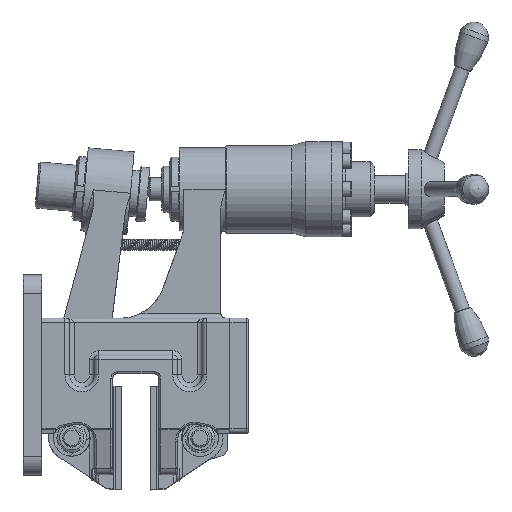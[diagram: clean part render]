
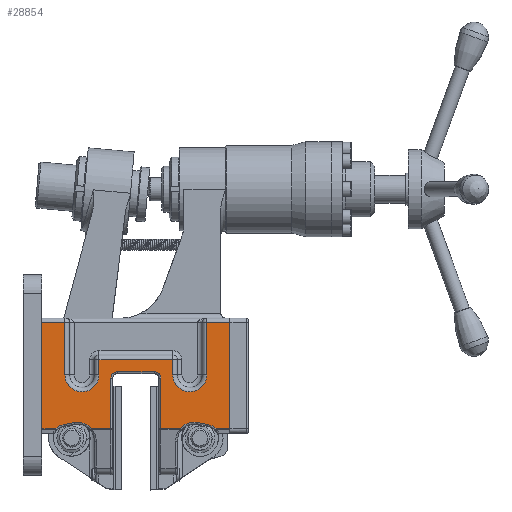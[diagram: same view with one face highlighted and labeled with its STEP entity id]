
A CAD part, top view. The second image highlights one B-rep face of the part: STEP entity #28854.
In plain terms, the highlighted planar face has unit normal (0, 0, 1).
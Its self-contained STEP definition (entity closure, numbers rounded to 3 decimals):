
#1496=PLANE('',#31441);
#2831=FACE_OUTER_BOUND('',#4508,.T.);
#4508=EDGE_LOOP('',(#22744,#22745,#22746,#22747,#22748,#22749,#22750,#22751,
#22752,#22753,#22754,#22755,#22756,#22757,#22758,#22759,#22760,#22761,#22762,
#22763,#22764,#22765,#22766,#22767,#22768,#22769));
#5959=LINE('',#51668,#7972);
#6162=LINE('',#52594,#8175);
#6386=LINE('',#53417,#8399);
#6388=LINE('',#53434,#8401);
#6391=LINE('',#53446,#8404);
#6393=LINE('',#53456,#8406);
#6395=LINE('',#53462,#8408);
#6396=LINE('',#53465,#8409);
#6398=LINE('',#53476,#8411);
#6428=LINE('',#53795,#8441);
#6429=LINE('',#53803,#8442);
#6430=LINE('',#53811,#8443);
#6436=LINE('',#53841,#8449);
#6437=LINE('',#53849,#8450);
#6441=LINE('',#53914,#8454);
#6448=LINE('',#53995,#8461);
#6449=LINE('',#54001,#8462);
#6450=LINE('',#54003,#8463);
#7972=VECTOR('',#35932,10.);
#8175=VECTOR('',#36739,10.);
#8399=VECTOR('',#37463,5.);
#8401=VECTOR('',#37483,10.);
#8404=VECTOR('',#37498,10.);
#8406=VECTOR('',#37510,10.);
#8408=VECTOR('',#37516,5.);
#8409=VECTOR('',#37519,10.);
#8411=VECTOR('',#37533,10.);
#8441=VECTOR('',#37675,10.);
#8442=VECTOR('',#37686,10.);
#8443=VECTOR('',#37697,10.);
#8449=VECTOR('',#37729,10.);
#8450=VECTOR('',#37732,10.);
#8454=VECTOR('',#37770,10.);
#8461=VECTOR('',#37801,10.);
#8462=VECTOR('',#37806,10.);
#8463=VECTOR('',#37809,10.);
#10162=CIRCLE('',#31314,18.5);
#10170=CIRCLE('',#31328,18.5);
#10202=CIRCLE('',#31390,7.);
#10205=CIRCLE('',#31395,7.);
#10220=CIRCLE('',#31426,20.);
#10223=CIRCLE('',#31431,18.);
#10227=CIRCLE('',#31442,18.);
#10228=CIRCLE('',#31443,20.);
#12029=VERTEX_POINT('',#51665);
#12030=VERTEX_POINT('',#51667);
#12301=VERTEX_POINT('',#52582);
#12305=VERTEX_POINT('',#52592);
#12566=VERTEX_POINT('',#53416);
#12568=VERTEX_POINT('',#53422);
#12572=VERTEX_POINT('',#53433);
#12574=VERTEX_POINT('',#53439);
#12576=VERTEX_POINT('',#53448);
#12580=VERTEX_POINT('',#53460);
#12581=VERTEX_POINT('',#53464);
#12583=VERTEX_POINT('',#53470);
#12613=VERTEX_POINT('',#53790);
#12614=VERTEX_POINT('',#53794);
#12615=VERTEX_POINT('',#53798);
#12616=VERTEX_POINT('',#53802);
#12617=VERTEX_POINT('',#53806);
#12618=VERTEX_POINT('',#53810);
#12625=VERTEX_POINT('',#53836);
#12626=VERTEX_POINT('',#53843);
#12630=VERTEX_POINT('',#53908);
#12631=VERTEX_POINT('',#53912);
#12637=VERTEX_POINT('',#53990);
#12638=VERTEX_POINT('',#53997);
#12639=VERTEX_POINT('',#53998);
#12640=VERTEX_POINT('',#54000);
#15292=EDGE_CURVE('',#12029,#12030,#5959,.T.);
#15691=EDGE_CURVE('',#12305,#12301,#6162,.T.);
#16064=EDGE_CURVE('',#12030,#12566,#6386,.T.);
#16072=EDGE_CURVE('',#12566,#12572,#6388,.T.);
#16075=EDGE_CURVE('',#12572,#12574,#10162,.T.);
#16079=EDGE_CURVE('',#12574,#12568,#6391,.T.);
#16084=EDGE_CURVE('',#12568,#12576,#6393,.T.);
#16087=EDGE_CURVE('',#12580,#12305,#6395,.T.);
#16088=EDGE_CURVE('',#12576,#12581,#6396,.T.);
#16091=EDGE_CURVE('',#12581,#12583,#10170,.T.);
#16094=EDGE_CURVE('',#12583,#12580,#6398,.T.);
#16158=EDGE_CURVE('',#12613,#12614,#6428,.T.);
#16160=EDGE_CURVE('',#12614,#12615,#10202,.T.);
#16162=EDGE_CURVE('',#12615,#12616,#6429,.T.);
#16164=EDGE_CURVE('',#12616,#12617,#10205,.T.);
#16166=EDGE_CURVE('',#12617,#12618,#6430,.T.);
#16180=EDGE_CURVE('',#12301,#12625,#6436,.T.);
#16182=EDGE_CURVE('',#12626,#12613,#6437,.T.);
#16194=EDGE_CURVE('',#12630,#12626,#10220,.T.);
#16196=EDGE_CURVE('',#12631,#12630,#6441,.T.);
#16198=EDGE_CURVE('',#12625,#12631,#10223,.T.);
#16211=EDGE_CURVE('',#12618,#12637,#6448,.T.);
#16212=EDGE_CURVE('',#12638,#12639,#10227,.T.);
#16213=EDGE_CURVE('',#12640,#12638,#6449,.T.);
#16214=EDGE_CURVE('',#12637,#12640,#10228,.T.);
#16215=EDGE_CURVE('',#12639,#12029,#6450,.T.);
#22744=ORIENTED_EDGE('',*,*,#16212,.F.);
#22745=ORIENTED_EDGE('',*,*,#16213,.F.);
#22746=ORIENTED_EDGE('',*,*,#16214,.F.);
#22747=ORIENTED_EDGE('',*,*,#16211,.F.);
#22748=ORIENTED_EDGE('',*,*,#16166,.F.);
#22749=ORIENTED_EDGE('',*,*,#16164,.F.);
#22750=ORIENTED_EDGE('',*,*,#16162,.F.);
#22751=ORIENTED_EDGE('',*,*,#16160,.F.);
#22752=ORIENTED_EDGE('',*,*,#16158,.F.);
#22753=ORIENTED_EDGE('',*,*,#16182,.F.);
#22754=ORIENTED_EDGE('',*,*,#16194,.F.);
#22755=ORIENTED_EDGE('',*,*,#16196,.F.);
#22756=ORIENTED_EDGE('',*,*,#16198,.F.);
#22757=ORIENTED_EDGE('',*,*,#16180,.F.);
#22758=ORIENTED_EDGE('',*,*,#15691,.F.);
#22759=ORIENTED_EDGE('',*,*,#16087,.F.);
#22760=ORIENTED_EDGE('',*,*,#16094,.F.);
#22761=ORIENTED_EDGE('',*,*,#16091,.F.);
#22762=ORIENTED_EDGE('',*,*,#16088,.F.);
#22763=ORIENTED_EDGE('',*,*,#16084,.F.);
#22764=ORIENTED_EDGE('',*,*,#16079,.F.);
#22765=ORIENTED_EDGE('',*,*,#16075,.F.);
#22766=ORIENTED_EDGE('',*,*,#16072,.F.);
#22767=ORIENTED_EDGE('',*,*,#16064,.F.);
#22768=ORIENTED_EDGE('',*,*,#15292,.F.);
#22769=ORIENTED_EDGE('',*,*,#16215,.F.);
#28854=ADVANCED_FACE('',(#2831),#1496,.T.);
#31314=AXIS2_PLACEMENT_3D('',#53440,#37489,#37490);
#31328=AXIS2_PLACEMENT_3D('',#53471,#37525,#37526);
#31390=AXIS2_PLACEMENT_3D('',#53799,#37680,#37681);
#31395=AXIS2_PLACEMENT_3D('',#53807,#37691,#37692);
#31426=AXIS2_PLACEMENT_3D('',#53910,#37764,#37765);
#31431=AXIS2_PLACEMENT_3D('',#53917,#37775,#37776);
#31441=AXIS2_PLACEMENT_3D('',#53996,#37802,#37803);
#31442=AXIS2_PLACEMENT_3D('',#53999,#37804,#37805);
#31443=AXIS2_PLACEMENT_3D('',#54002,#37807,#37808);
#35932=DIRECTION('',(0.,1.,0.));
#36739=DIRECTION('',(0.,-1.,0.));
#37463=DIRECTION('',(1.,0.,0.));
#37483=DIRECTION('',(0.,-1.,0.));
#37489=DIRECTION('center_axis',(0.,0.,
1.));
#37490=DIRECTION('ref_axis',(0.,-1.,0.));
#37498=DIRECTION('',(0.,1.,0.));
#37510=DIRECTION('',(1.,0.,0.));
#37516=DIRECTION('',(1.,0.,0.));
#37519=DIRECTION('',(0.,-1.,0.));
#37525=DIRECTION('center_axis',(0.,0.,
1.));
#37526=DIRECTION('ref_axis',(0.,-1.,0.));
#37533=DIRECTION('',(0.,1.,0.));
#37675=DIRECTION('',(0.,1.,0.));
#37680=DIRECTION('center_axis',(0.,0.,
1.));
#37681=DIRECTION('ref_axis',(0.707,0.707,0.));
#37686=DIRECTION('',(-1.,0.,0.));
#37691=DIRECTION('center_axis',(0.,0.,
1.));
#37692=DIRECTION('ref_axis',(-0.707,0.707,0.));
#37697=DIRECTION('',(0.,-1.,0.));
#37729=DIRECTION('',(-1.,0.,0.));
#37732=DIRECTION('',(-1.,0.,0.));
#37764=DIRECTION('center_axis',(0.,0.,
1.));
#37765=DIRECTION('ref_axis',(-0.29,0.957,0.));
#37770=DIRECTION('',(-0.985,0.174,0.));
#37775=DIRECTION('center_axis',(0.,0.,
1.));
#37776=DIRECTION('ref_axis',(0.388,0.922,0.));
#37801=DIRECTION('',(-1.,0.,0.));
#37802=DIRECTION('center_axis',(0.,0.,
1.));
#37803=DIRECTION('ref_axis',(1.,0.,0.));
#37804=DIRECTION('center_axis',(0.,0.,
1.));
#37805=DIRECTION('ref_axis',(-0.388,0.922,0.));
#37806=DIRECTION('',(-0.985,-0.174,0.));
#37807=DIRECTION('center_axis',(0.,0.,
1.));
#37808=DIRECTION('ref_axis',(0.29,0.957,0.));
#37809=DIRECTION('',(-1.,0.,0.));
#51665=CARTESIAN_POINT('',(-102.,50.,285.));
#51667=CARTESIAN_POINT('',(-102.,165.,285.));
#51668=CARTESIAN_POINT('',(-102.,98.526,285.));
#52582=CARTESIAN_POINT('',(102.,50.,285.));
#52592=CARTESIAN_POINT('',(102.,165.,285.));
#52594=CARTESIAN_POINT('',(102.,165.,285.));
#53416=CARTESIAN_POINT('',(-77.,165.,285.));
#53417=CARTESIAN_POINT('',(102.,165.,285.));
#53422=CARTESIAN_POINT('',(-40.,125.,285.));
#53433=CARTESIAN_POINT('',(-77.,108.5,285.));
#53434=CARTESIAN_POINT('',(-77.,99.315,285.));
#53439=CARTESIAN_POINT('',(-40.,108.5,285.));
#53440=CARTESIAN_POINT('Origin',(-58.5,108.5,285.));
#53446=CARTESIAN_POINT('',(-40.,107.565,285.));
#53448=CARTESIAN_POINT('',(40.,125.,285.));
#53456=CARTESIAN_POINT('',(20.,125.,285.));
#53460=CARTESIAN_POINT('',(77.,165.,285.));
#53462=CARTESIAN_POINT('',(0.,165.,285.));
#53464=CARTESIAN_POINT('',(40.,108.5,285.));
#53465=CARTESIAN_POINT('',(40.,99.315,285.));
#53470=CARTESIAN_POINT('',(77.,108.5,285.));
#53471=CARTESIAN_POINT('Origin',(58.5,108.5,285.));
#53476=CARTESIAN_POINT('',(77.,127.565,285.));
#53790=CARTESIAN_POINT('',(27.,50.,285.));
#53794=CARTESIAN_POINT('',(27.,105.,285.));
#53795=CARTESIAN_POINT('',(27.,97.565,285.));
#53798=CARTESIAN_POINT('',(20.,112.,285.));
#53799=CARTESIAN_POINT('Origin',(20.,105.,285.));
#53802=CARTESIAN_POINT('',(-20.,112.,285.));
#53803=CARTESIAN_POINT('',(-10.,112.,285.));
#53806=CARTESIAN_POINT('',(-27.,105.,285.));
#53807=CARTESIAN_POINT('Origin',(-20.,105.,285.));
#53810=CARTESIAN_POINT('',(-27.,50.,285.));
#53811=CARTESIAN_POINT('',(-27.,45.065,285.));
#53836=CARTESIAN_POINT('',(86.95,50.,285.));
#53841=CARTESIAN_POINT('',(-102.,50.,285.));
#53843=CARTESIAN_POINT('',(47.801,50.,285.));
#53849=CARTESIAN_POINT('',(-102.,50.,285.));
#53908=CARTESIAN_POINT('',(66.478,56.695,285.));
#53910=CARTESIAN_POINT('Origin',(63.,37.,285.));
#53912=CARTESIAN_POINT('',(77.63,54.726,285.));
#53914=CARTESIAN_POINT('',(31.381,62.893,285.));
#53917=CARTESIAN_POINT('Origin',(74.5,37.,285.));
#53990=CARTESIAN_POINT('',(-47.801,50.,285.));
#53995=CARTESIAN_POINT('',(-102.,50.,285.));
#53996=CARTESIAN_POINT('Origin',(0.,90.129,
285.));
#53997=CARTESIAN_POINT('',(-77.63,54.726,285.));
#53998=CARTESIAN_POINT('',(-86.95,50.,285.));
#53999=CARTESIAN_POINT('Origin',(-74.5,37.,285.));
#54000=CARTESIAN_POINT('',(-66.478,56.695,285.));
#54001=CARTESIAN_POINT('',(-36.958,61.909,285.));
#54002=CARTESIAN_POINT('Origin',(-63.,37.,285.));
#54003=CARTESIAN_POINT('',(-102.,50.,285.));
